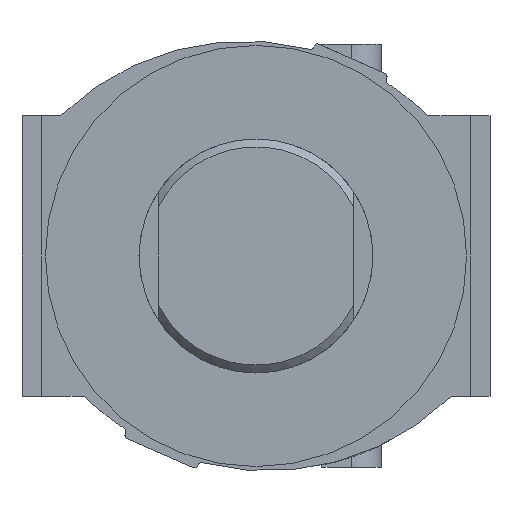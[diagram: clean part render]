
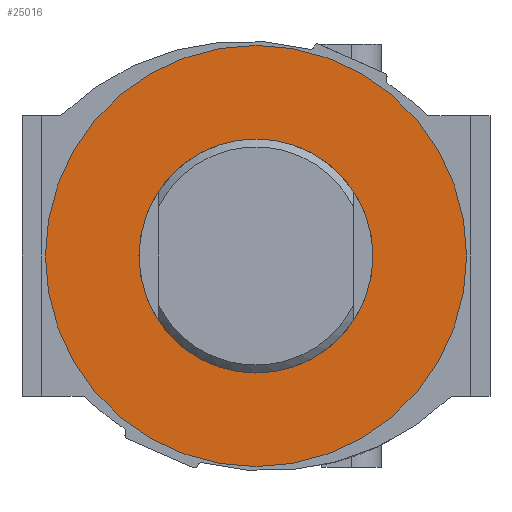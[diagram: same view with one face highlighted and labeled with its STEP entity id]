
A CAD part, front view. The second image highlights one B-rep face of the part: STEP entity #25016.
In plain terms, the highlighted planar face has unit normal (0, -1, 0) as drawn and (0, 1, 0) by its records, which use the part's own axes.
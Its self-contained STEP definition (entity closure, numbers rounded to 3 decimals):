
#569=FACE_BOUND('',#3764,.T.);
#1038=PLANE('',#26962);
#2303=FACE_OUTER_BOUND('',#3763,.T.);
#3763=EDGE_LOOP('',(#20614));
#3764=EDGE_LOOP('',(#20615));
#9400=CIRCLE('',#26953,30.);
#9402=CIRCLE('',#26956,54.);
#11652=VERTEX_POINT('',#45203);
#11654=VERTEX_POINT('',#45209);
#14826=EDGE_CURVE('',#11652,#11652,#9400,.T.);
#14829=EDGE_CURVE('',#11654,#11654,#9402,.T.);
#20614=ORIENTED_EDGE('',*,*,#14829,.T.);
#20615=ORIENTED_EDGE('',*,*,#14826,.F.);
#25016=ADVANCED_FACE('',(#2303,#569),#1038,.T.);
#26953=AXIS2_PLACEMENT_3D('',#45205,#31410,#31411);
#26956=AXIS2_PLACEMENT_3D('',#45211,#31417,#31418);
#26962=AXIS2_PLACEMENT_3D('',#45225,#31437,#31438);
#31410=DIRECTION('center_axis',(0.,1.,0.));
#31411=DIRECTION('ref_axis',(0.,0.,1.));
#31417=DIRECTION('center_axis',(0.,1.,0.));
#31418=DIRECTION('ref_axis',(0.,0.,1.));
#31437=DIRECTION('center_axis',(0.,1.,0.));
#31438=DIRECTION('ref_axis',(0.,0.,1.));
#45203=CARTESIAN_POINT('',(0.,2.1,-30.));
#45205=CARTESIAN_POINT('Origin',(0.,2.1,0.));
#45209=CARTESIAN_POINT('',(0.,2.1,54.));
#45211=CARTESIAN_POINT('Origin',(0.,2.1,0.));
#45225=CARTESIAN_POINT('Origin',(0.,2.1,0.));
